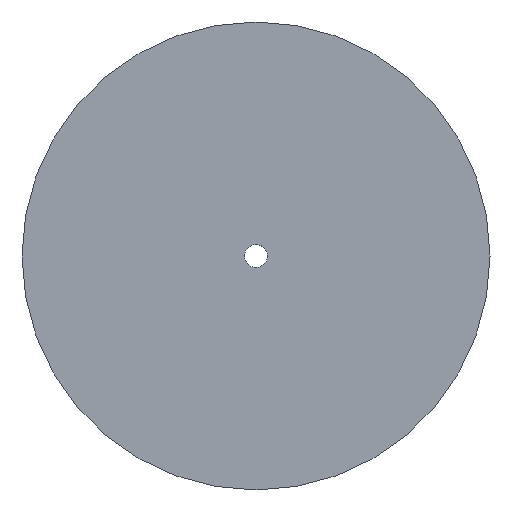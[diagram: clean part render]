
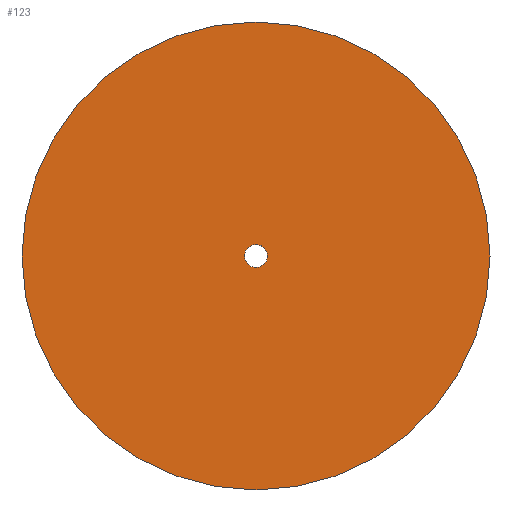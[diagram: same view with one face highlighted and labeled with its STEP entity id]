
A CAD part, top view. The second image highlights one B-rep face of the part: STEP entity #123.
In plain terms, the highlighted planar face has unit normal (0, 0, 1).
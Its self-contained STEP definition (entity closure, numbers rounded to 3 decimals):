
#62=CARTESIAN_POINT('Vertex',(-2.852,1.558,0.)) ;
#76=CARTESIAN_POINT('Vertex',(2.852,-1.558,0.)) ;
#79=CARTESIAN_POINT('Axis2P3D Location',(0.,0.,0.)) ;
#91=CARTESIAN_POINT('Axis2P3D Location',(0.,0.,0.)) ;
#96=CARTESIAN_POINT('Axis2P3D Location',(0.,0.,0.)) ;
#100=CARTESIAN_POINT('Vertex',(66.,0.,0.)) ;
#102=CARTESIAN_POINT('Vertex',(-66.,0.,0.)) ;
#105=CARTESIAN_POINT('Axis2P3D Location',(0.,0.,0.)) ;
#114=CARTESIAN_POINT('Axis2P3D Location',(0.,0.,0.)) ;
#80=DIRECTION('Axis2P3D Direction',(0.,-0.,-1.)) ;
#92=DIRECTION('Axis2P3D Direction',(0.,0.,1.)) ;
#93=DIRECTION('Axis2P3D XDirection',(1.,0.,0.)) ;
#97=DIRECTION('Axis2P3D Direction',(0.,0.,1.)) ;
#106=DIRECTION('Axis2P3D Direction',(0.,0.,1.)) ;
#115=DIRECTION('Axis2P3D Direction',(0.,0.,1.)) ;
#81=AXIS2_PLACEMENT_3D('Circle Axis2P3D',#79,#80,$) ;
#94=AXIS2_PLACEMENT_3D('Plane Axis2P3D',#91,#92,#93) ;
#98=AXIS2_PLACEMENT_3D('Circle Axis2P3D',#96,#97,$) ;
#107=AXIS2_PLACEMENT_3D('Circle Axis2P3D',#105,#106,$) ;
#116=AXIS2_PLACEMENT_3D('Circle Axis2P3D',#114,#115,$) ;
#111=ORIENTED_EDGE('',*,*,#104,.F.) ;
#112=ORIENTED_EDGE('',*,*,#109,.F.) ;
#120=ORIENTED_EDGE('',*,*,#118,.F.) ;
#121=ORIENTED_EDGE('',*,*,#83,.F.) ;
#122=FACE_BOUND('',#119,.T.) ;
#123=ADVANCED_FACE('PartBody',(#113,#122),#95,.T.) ;
#82=CIRCLE('generated circle',#81,3.25) ;
#99=CIRCLE('generated circle',#98,66.) ;
#108=CIRCLE('generated circle',#107,66.) ;
#117=CIRCLE('generated circle',#116,3.25) ;
#83=EDGE_CURVE('',#77,#63,#82,.F.) ;
#104=EDGE_CURVE('',#101,#103,#99,.F.) ;
#109=EDGE_CURVE('',#103,#101,#108,.F.) ;
#118=EDGE_CURVE('',#63,#77,#117,.T.) ;
#110=EDGE_LOOP('',(#111,#112)) ;
#119=EDGE_LOOP('',(#120,#121)) ;
#113=FACE_OUTER_BOUND('',#110,.T.) ;
#95=PLANE('',#94) ;
#63=VERTEX_POINT('',#62) ;
#77=VERTEX_POINT('',#76) ;
#101=VERTEX_POINT('',#100) ;
#103=VERTEX_POINT('',#102) ;
